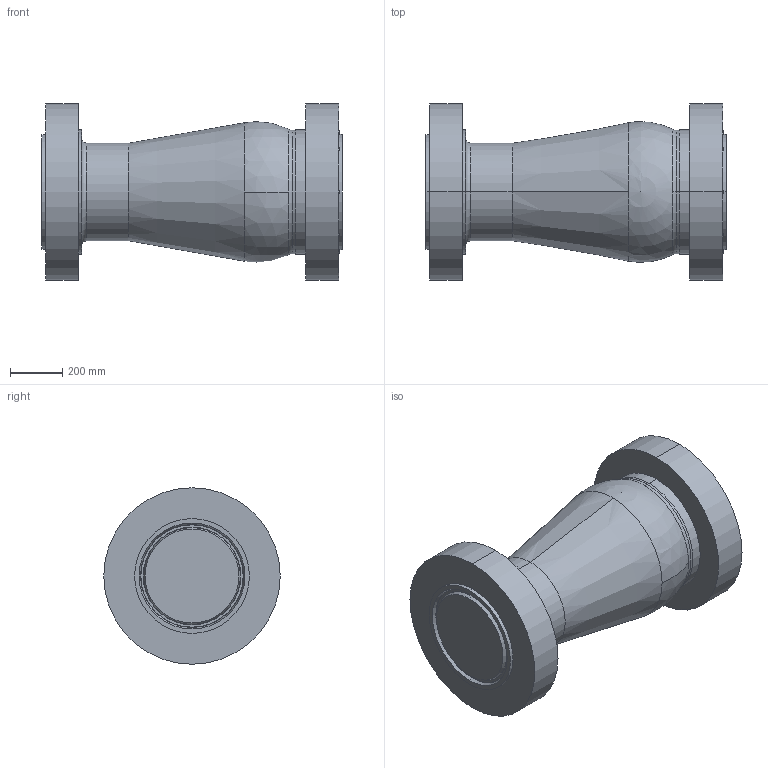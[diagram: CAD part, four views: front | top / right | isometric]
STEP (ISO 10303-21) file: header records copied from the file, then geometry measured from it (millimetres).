
FILE_DESCRIPTION (( 'STEP AP203' ), '1' );
FILE_NAME ('PDC 12 1500 RTJ.step', '2016-07-11T18:02:41', ( '' ), ( '' ), 'SwSTEP 2.0', 'SolidWorks 2015', '' );
FILE_SCHEMA (( 'CONFIG_CONTROL_DESIGN' ));
Length unit declared in the file: inch
Products named in the file (1): PDC 12 1500 RTJ
Bounding box: 1145.92 x 673.1 x 673.1 mm (x, y, z)
Volume: 233230277.4 mm3; surface area: 2985998.2 mm2
Topology: 1 solids, 1 shells, 110 faces, 259 edges, 165 vertices
Faces by surface type: plane 34, torus 32, cone 28, cylinder 14, sphere 2
Entity records: 3457 total; most frequent: CARTESIAN_POINT 831, DIRECTION 576, ORIENTED_EDGE 508, AXIS2_PLACEMENT_3D 259, EDGE_CURVE 254, VERTEX_POINT 162, CIRCLE 148, EDGE_LOOP 126
